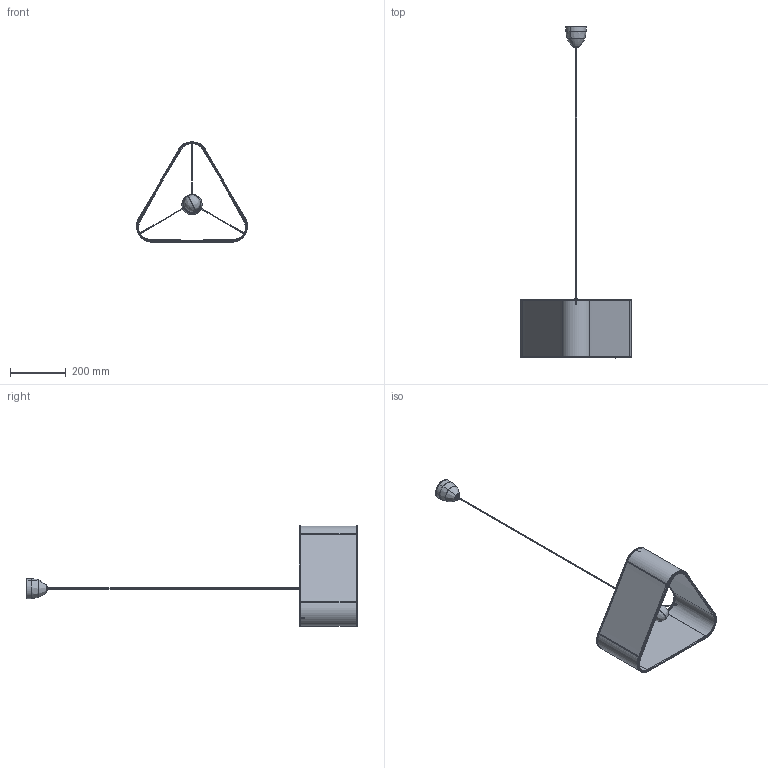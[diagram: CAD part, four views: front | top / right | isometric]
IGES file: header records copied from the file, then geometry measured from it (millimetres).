
Start section: SolidWorks IGES file using analytic representation for surfaces
Global section: file name: E:\3D lampy\Passion\Passion_5244.IGS; native system: SolidWorks 2016; preprocessor: SolidWorks 2016; author: Asia; date: 170929.110128; units: millimetre
Bounding box: 399.64 x 1194.83 x 360.68 mm (x, y, z)
Surface area: 1741693.6 mm2 (no closed solid volume)
Topology: 0 solids, 0 shells, 1178 faces, 12354 edges, 12334 vertices
Faces by surface type: bspline 704, revolution 474
